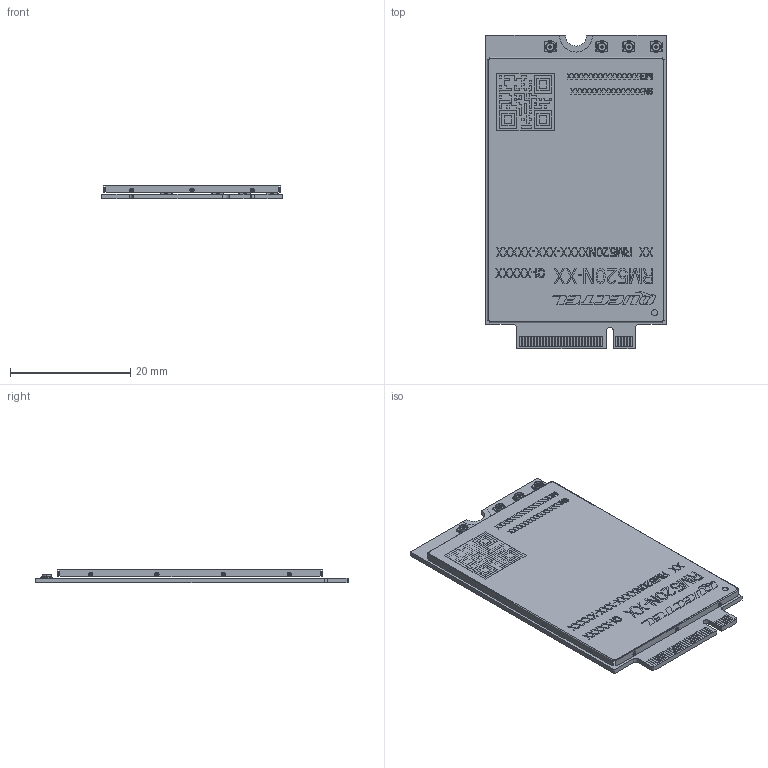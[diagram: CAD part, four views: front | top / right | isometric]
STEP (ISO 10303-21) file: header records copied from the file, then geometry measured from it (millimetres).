
FILE_DESCRIPTION((''),'2;1');
FILE_NAME('RM520N-GL-V2-1-ASSY_ASM','2021-08-26T',('levi.zhu'),(''),'CREO PARAMETRIC BY PTC INC, 2014190','CREO PARAMETRIC BY PTC INC, 2014190','');
FILE_SCHEMA(('CONFIG_CONTROL_DESIGN'));
Products named in the file (4): QT0024001411-COVER; COAXIAL_CONNECTOR_06; QUECTEL-RM520N-GL-PCB; RM520N-GL-V2-1-ASSY_ASM
Assembly tree (6 placements, depth 2):
  RM520N-GL-V2-1-ASSY_ASM
    QT0024001411-COVER
    COAXIAL_CONNECTOR_06  x4
    QUECTEL-RM520N-GL-PCB
Bounding box: 30 x 52 x 2.3 mm (x, y, z)
Volume: 1405.8 mm3; surface area: 6170.3 mm2
Topology: 6 solids, 6 shells, 2313 faces, 6141 edges, 4029 vertices
Faces by surface type: plane 2018, extrusion 100, cylinder 75, torus 64, sphere 56
Entity records: 83751 total; most frequent: CARTESIAN_POINT 12899, ORIENTED_EDGE 11624, DIRECTION 10280, EDGE_CURVE 5812, VECTOR 5374, LINE 5274, PRESENTATION_STYLE_ASSIGNMENT 4928, STYLED_ITEM 4835
